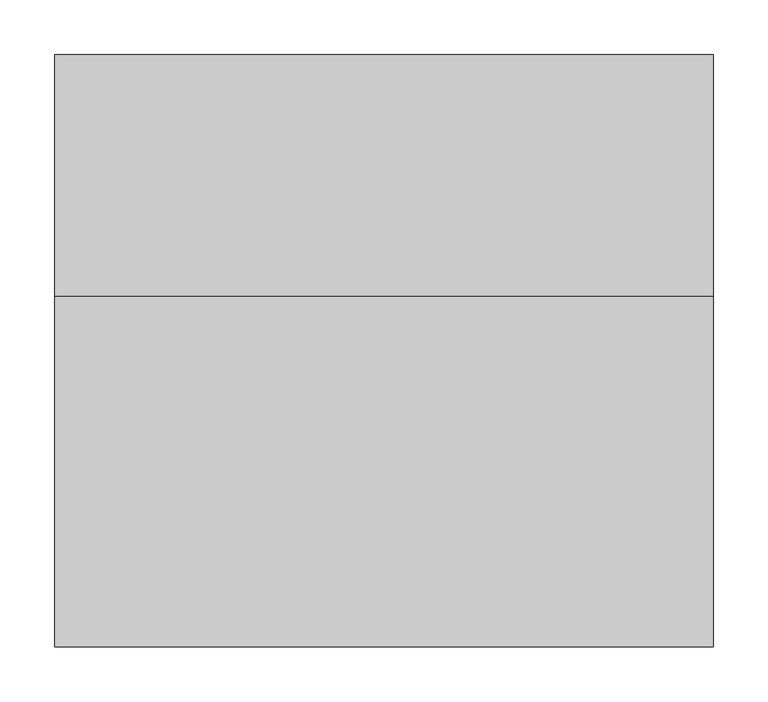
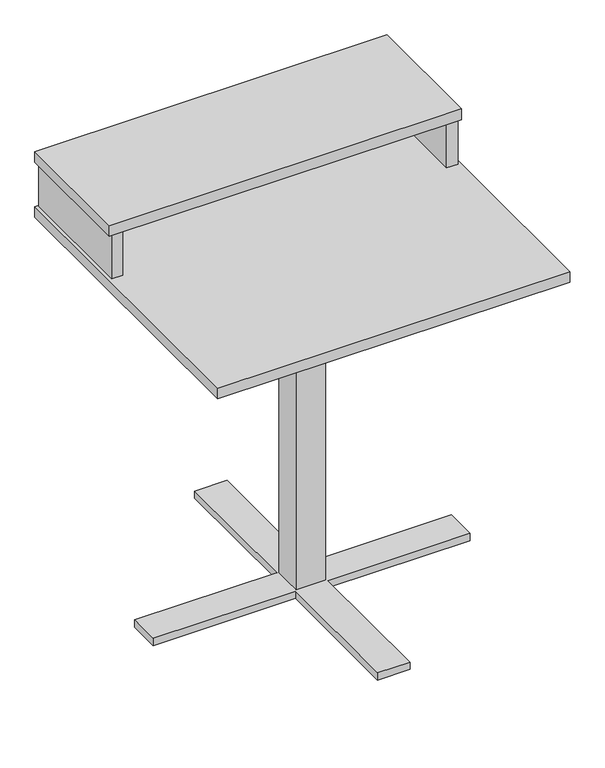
"""IFC4 building model written with IfcOpenShell, lengths in millimetres: furniture geometry, BK Library - Smaaland - Search Terminal : BK Library - Smaaland - Search Terminal."""

import ifcopenshell
import ifcopenshell.guid

model = None  # the IFC model being written
_history = None  # IfcOwnerHistory: only IFC2X3 demands one
_inside = {}  # id of a spatial element -> (the spatial element, [elements in it])
_under = {}  # id of a project, library or spatial element -> (it, [spatial elements below it])
_declared = {}  # id of a project -> (the project, [libraries it declares])
_typed = {}  # id of a type object -> (the type object, [elements of that type])
_made_of = {}  # id of a material, layer set ... -> (it, [elements and type objects made of it])


def new_model(schema):
    """Start an empty IFC model of exactly this schema.

    Asked for "IFC4X3", IfcOpenShell would pick the latest addendum, in which some entities
    have other attributes; the version numbers below select the first issue.
    IFC2X3 requires an IfcOwnerHistory on every rooted entity: one is made here for all.
    """
    global model, _history
    if schema == "IFC4X3":
        model = ifcopenshell.file(schema_version=(4, 3, 0, 0))
    else:
        model = ifcopenshell.file(schema=schema)
    _inside.clear()
    _under.clear()
    _declared.clear()
    _typed.clear()
    _made_of.clear()
    _history = None
    if model.schema == "IFC2X3":
        org = make("IfcOrganization", Name="unknown")
        user = make(
            "IfcPersonAndOrganization",
            ThePerson=make("IfcPerson", FamilyName="unknown"),
            TheOrganization=org,
        )
        app = make(
            "IfcApplication",
            ApplicationDeveloper=org,
            Version="unknown",
            ApplicationFullName="unknown",
            ApplicationIdentifier="unknown",
        )
        _history = make(
            "IfcOwnerHistory",
            OwningUser=user,
            OwningApplication=app,
            ChangeAction="ADDED",
            CreationDate=0,
        )
    return model


def make(cls, **values):
    """One entity of the class cls with the attributes given. An attribute that is None is left unset."""
    return model.create_entity(
        cls, **{name: value for name, value in values.items() if value is not None}
    )


def rooted(cls, **values):
    """An entity with a GlobalId (a new one), such as an element, a storey or a relation."""
    return make(cls, GlobalId=ifcopenshell.guid.new(), OwnerHistory=_history, **values)


def si_unit(unit_type, name, prefix=None):
    """IfcSIUnit, for example si_unit("LENGTHUNIT", "METRE", prefix="MILLI")."""
    return make("IfcSIUnit", UnitType=unit_type, Prefix=prefix, Name=name)


def assignment(units):
    """IfcUnitAssignment: the units of a project."""
    return None if units is None else make("IfcUnitAssignment", Units=units)


def point(xyz):
    """IfcCartesianPoint."""
    return None if xyz is None else make("IfcCartesianPoint", Coordinates=xyz)


def direction(xyz):
    """IfcDirection."""
    return None if xyz is None else make("IfcDirection", DirectionRatios=xyz)


def frame(location, z_axis=None, x_axis=None):
    """IfcAxis2Placement3D, a coordinate frame: its origin and axes. An axis left out is left unset."""
    return make(
        "IfcAxis2Placement3D",
        Location=point(location),
        Axis=direction(z_axis),
        RefDirection=direction(x_axis),
    )


def frame_2d(location, x_axis=None):
    """IfcAxis2Placement2D, a coordinate frame in the plane: its origin and x axis."""
    return make(
        "IfcAxis2Placement2D", Location=point(location), RefDirection=direction(x_axis)
    )


def origin():
    """The frame at (0, 0, 0) with its axes left unset."""
    return frame((0.0, 0.0, 0.0))


def origin_with_axes():
    """The frame at (0, 0, 0) with the z axis (0, 0, 1) and the x axis (1, 0, 0) written out."""
    return frame((0.0, 0.0, 0.0), z_axis=(0.0, 0.0, 1.0), x_axis=(1.0, 0.0, 0.0))


def origin_2d():
    """The frame at (0, 0) in the plane with its x axis left unset."""
    return frame_2d((0.0, 0.0))


def place(relative_to, where):
    """IfcLocalPlacement: puts the frame where relative to a parent placement (None: the world)."""
    return make(
        "IfcLocalPlacement", PlacementRelTo=relative_to, RelativePlacement=where
    )


def context(
    kind, dimensions, precision=None, world=None, true_north=None, identifier=None
):
    """IfcGeometricRepresentationContext, for example the 3D "Model" context."""
    return make(
        "IfcGeometricRepresentationContext",
        ContextIdentifier=identifier,
        ContextType=kind,
        CoordinateSpaceDimension=dimensions,
        Precision=precision,
        WorldCoordinateSystem=world,
        TrueNorth=true_north,
    )


def project(units=None, contexts=None):
    """IfcProject with its units and contexts."""
    return rooted(
        "IfcProject",
        Name="project",
        RepresentationContexts=contexts,
        UnitsInContext=assignment(units),
    )


def spatial(cls, under=None, at=None, **own):
    """A site, building, storey or space (cls), placed at a placement, below another one or the project."""
    s = rooted(cls, ObjectPlacement=at, **own)
    if under is not None:
        _under.setdefault(under.id(), (under, []))[1].append(s)
    return s


def polyline(points):
    """IfcPolyline through the points."""
    return make("IfcPolyline", Points=[point(p) for p in points])


def circle_curve(where, radius):
    """IfcCircle in the frame where."""
    return make("IfcCircle", Position=where, Radius=radius)


def trimmed(basis, trim1, trim2, sense, master):
    """IfcTrimmedCurve: the piece of a basis curve between two trims."""
    return make(
        "IfcTrimmedCurve",
        BasisCurve=basis,
        Trim1=trim1,
        Trim2=trim2,
        SenseAgreement=sense,
        MasterRepresentation=master,
    )


def segment(curve, same_sense, transition):
    """IfcCompositeCurveSegment."""
    return make(
        "IfcCompositeCurveSegment",
        Transition=transition,
        SameSense=same_sense,
        ParentCurve=curve,
    )


def composite_curve(segments, self_intersect=None):
    """IfcCompositeCurve: segments joined end to end."""
    return make("IfcCompositeCurve", Segments=segments, SelfIntersect=self_intersect)


def outline(outer, holes=None, kind="AREA"):
    """IfcArbitraryClosedProfileDef: a profile drawn as a closed curve; with holes, ...WithVoids."""
    if holes is None:
        return make("IfcArbitraryClosedProfileDef", ProfileType=kind, OuterCurve=outer)
    return make(
        "IfcArbitraryProfileDefWithVoids",
        ProfileType=kind,
        OuterCurve=outer,
        InnerCurves=holes,
    )


def extrude(swept, where, along, depth):
    """IfcExtrudedAreaSolid: the profile swept, set in the frame where, extruded along a direction by depth."""
    return make(
        "IfcExtrudedAreaSolid",
        SweptArea=swept,
        Position=where,
        ExtrudedDirection=direction(along),
        Depth=depth,
    )


def shape(context_of_items, identifier, shape_type, items):
    """IfcShapeRepresentation: the items that make up one representation, for example the "Body"."""
    return make(
        "IfcShapeRepresentation",
        ContextOfItems=context_of_items,
        RepresentationIdentifier=identifier,
        RepresentationType=shape_type,
        Items=items,
    )


def source(mapping_origin, context_of_items, identifier, shape_type, items):
    """IfcRepresentationMap: a shape defined once, which mapped items show again and again."""
    return make(
        "IfcRepresentationMap",
        MappingOrigin=mapping_origin,
        MappedRepresentation=shape(context_of_items, identifier, shape_type, items),
    )


def transform(
    local_origin,
    x_axis=None,
    y_axis=None,
    z_axis=None,
    scale=None,
    scale2=None,
    scale3=None,
    uniform=True,
):
    """IfcCartesianTransformationOperator3D, or its non-uniform kind. x_axis, y_axis, z_axis: its Axis1, 2, 3."""
    if uniform:
        return make(
            "IfcCartesianTransformationOperator3D",
            Axis1=direction(x_axis),
            Axis2=direction(y_axis),
            LocalOrigin=point(local_origin),
            Scale=scale,
            Axis3=direction(z_axis),
        )
    return make(
        "IfcCartesianTransformationOperator3DnonUniform",
        Axis1=direction(x_axis),
        Axis2=direction(y_axis),
        LocalOrigin=point(local_origin),
        Scale=scale,
        Axis3=direction(z_axis),
        Scale2=scale2,
        Scale3=scale3,
    )


def mapped(mapping_source, mapping_target):
    """IfcMappedItem: shows the shape of a source again, moved by a transform."""
    return make(
        "IfcMappedItem", MappingSource=mapping_source, MappingTarget=mapping_target
    )


def made_of(thing, what):
    """Note that an element or type object is made of a material, layer set ...; save() writes the relation."""
    if what is not None:
        _made_of.setdefault(what.id(), (what, []))[1].append(thing)
    return thing


def element(
    cls,
    number,
    at=None,
    inside=None,
    cuts=None,
    type_object=None,
    material=None,
    context=None,
    identifier="Body",
    shape_type=None,
    held_by="IfcProductDefinitionShape",
    body=None,
    shapes=None,
    **own,
):
    """One element of the class cls, such as IfcWall. Its Tag is "e" and its number.

    at: its placement. inside: the storey or other place that contains it. cuts: it is an
    opening in that element (IfcRelVoidsElement). A single representation is given by context,
    identifier, shape_type and body (its items); several are given by shapes. held_by: the class
    of the entity that holds the representations. save() writes the other relations.
    """
    e = rooted(cls, Tag="e%d" % number, ObjectPlacement=at, **own)
    if body is not None:
        shapes = [shape(context, identifier, shape_type, body)]
    if shapes is not None:
        e.Representation = make(held_by, Representations=shapes)
    if inside is not None:
        _inside.setdefault(inside.id(), (inside, []))[1].append(e)
    if cuts is not None:
        rooted(
            "IfcRelVoidsElement", RelatingBuildingElement=cuts, RelatedOpeningElement=e
        )
    if type_object is not None:
        _typed.setdefault(type_object.id(), (type_object, []))[1].append(e)
    return made_of(e, material)


def aggregate(whole, parts):
    """IfcRelAggregates: a whole, such as a stair, and the parts it consists of."""
    return rooted("IfcRelAggregates", RelatingObject=whole, RelatedObjects=parts)


def save(model, path):
    """Write the relations noted so far, then the file.

    IfcRelAggregates (storeys below a building ...), IfcRelContainedInSpatialStructure (elements
    in a storey), IfcRelDefinesByType, IfcRelAssociatesMaterial and IfcRelDeclares: one each for
    every whole, place, type object, material and project.
    """
    for whole, parts in _under.values():
        aggregate(whole, parts)
    for where, things in _inside.values():
        rooted(
            "IfcRelContainedInSpatialStructure",
            RelatedElements=things,
            RelatingStructure=where,
        )
    for kind, things in _typed.values():
        rooted("IfcRelDefinesByType", RelatedObjects=things, RelatingType=kind)
    for what, things in _made_of.values():
        rooted("IfcRelAssociatesMaterial", RelatedObjects=things, RelatingMaterial=what)
    for by, libraries in _declared.values():
        rooted("IfcRelDeclares", RelatingContext=by, RelatedDefinitions=libraries)
    model.write(path)


def furniture_af698ce7(model_context):
    return source(origin(), model_context, "Body", "SweptSolid", [
        extrude(outline(polyline([(-270.0, 27.5), (-27.5, 27.5), (-27.5, 270.0), (27.5, 270.0), (27.5, 27.5), (270.0, 27.5), (270.0, -27.5), (27.5, -27.5), (27.5, -270.0), (-27.5, -270.0), (-27.5, -27.5), (-270.0, -27.5), (-270.0, 27.5)])), origin_with_axes(), (0.0, 0.0, 1.0), 13.0),
        extrude(outline(polyline([(25.0, 25.0), (25.0, -25.0), (-25.0, -25.0), (-25.0, 25.0), (25.0, 25.0)])), frame((0.0, 0.0, 13.0), z_axis=(0.0, 0.0, 1.0), x_axis=(1.0, 0.0, 0.0)), (0.0, 0.0, 1.0), 483.0),
        extrude(outline(polyline([(20.0, 20.0), (20.0, -20.0), (-20.0, -20.0), (-20.0, 20.0), (20.0, 20.0)])), frame((0.0, 0.0, 484.8823982), z_axis=(0.0, 0.0, 1.0), x_axis=(1.0, 0.0, 0.0)), (0.0, 0.0, 1.0), 111.1176018),
        extrude(outline(composite_curve([segment(trimmed(circle_curve(origin_2d(), 112.5185375), [point((-112.5185375, 0.0))], [point((112.5185375, 0.0))], False, "CARTESIAN"), True, "CONTINUOUS"), segment(trimmed(circle_curve(origin_2d(), 112.5185375), [point((112.5185375, 0.0))], [point((-112.5185375, 0.0))], False, "CARTESIAN"), True, "CONTINUOUS")], self_intersect=False)), frame((0.0, 0.0, 596.0), z_axis=(0.0, 0.0, 1.0), x_axis=(1.0, 0.0, 0.0)), (0.0, 0.0, 1.0), 6.0),
        extrude(outline(polyline([(-295.0, 268.0), (-276.0, 268.0), (-276.0, 52.0), (-295.0, 52.0), (-295.0, 268.0)])), frame((0.0, 0.0, 621.0), z_axis=(0.0, 0.0, 1.0), x_axis=(1.0, 0.0, 0.0)), (0.0, 0.0, 1.0), 80.0),
        extrude(outline(polyline([(295.0, 268.0), (295.0, 52.0), (276.0, 52.0), (276.0, 268.0), (295.0, 268.0)])), frame((0.0, 0.0, 621.0), z_axis=(0.0, 0.0, 1.0), x_axis=(1.0, 0.0, 0.0)), (0.0, 0.0, 1.0), 80.0),
        extrude(outline(polyline([(300.0, 270.0), (300.0, -270.0), (-300.0, -270.0), (-300.0, 270.0), (300.0, 270.0)]), holes=[composite_curve([segment(trimmed(circle_curve(frame_2d((0.0, 219.8455333)), 30.0), [point((-30.0, 219.8455333))], [point((30.0, 219.8455333))], True, "CARTESIAN"), True, "CONTINUOUS"), segment(trimmed(circle_curve(frame_2d((0.0, 219.8455333)), 30.0), [point((30.0, 219.8455333))], [point((-30.0, 219.8455333))], True, "CARTESIAN"), True, "CONTINUOUS")], self_intersect=False)]), frame((0.0, 0.0, 602.0), z_axis=(0.0, 0.0, 1.0), x_axis=(1.0, 0.0, 0.0)), (0.0, 0.0, 1.0), 19.0),
        extrude(outline(polyline([(300.0, 270.0), (300.0, 50.0), (-300.0, 50.0), (-300.0, 270.0), (300.0, 270.0)])), frame((0.0, 0.0, 701.0), z_axis=(0.0, 0.0, 1.0), x_axis=(1.0, 0.0, 0.0)), (0.0, 0.0, 1.0), 19.0),
    ])


if __name__ == "__main__":
    model = new_model("IFC4")
    model_context = context("Model", 3, world=origin())
    ifc_project = project(units=[si_unit("LENGTHUNIT", "METRE", prefix="MILLI")], contexts=[model_context])
    site = spatial("IfcSite", under=ifc_project)
    building = spatial("IfcBuilding", under=site)
    placement = place(None, origin())
    furniture_shape = furniture_af698ce7(model_context)
    element("IfcFurniture", 1, ObjectType="BK Library - Smaaland - Search Terminal : BK Library - Smaaland - Search Terminal", at=placement, inside=building, context=model_context, shape_type="MappedRepresentation", body=[
        mapped(furniture_shape, transform((0.0, 0.0, 0.0), x_axis=(1.0, 0.0, 0.0), y_axis=(0.0, 1.0, 0.0), z_axis=(0.0, 0.0, 1.0))),
    ])
    save(model, "model.ifc")
